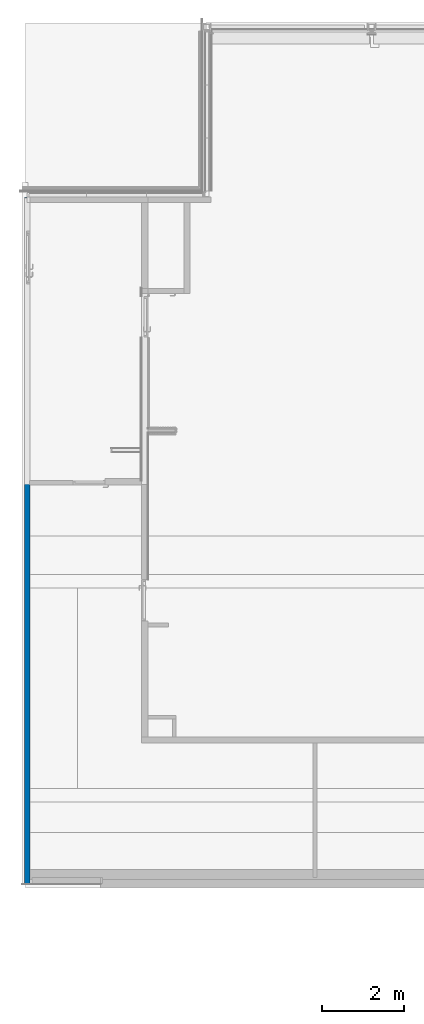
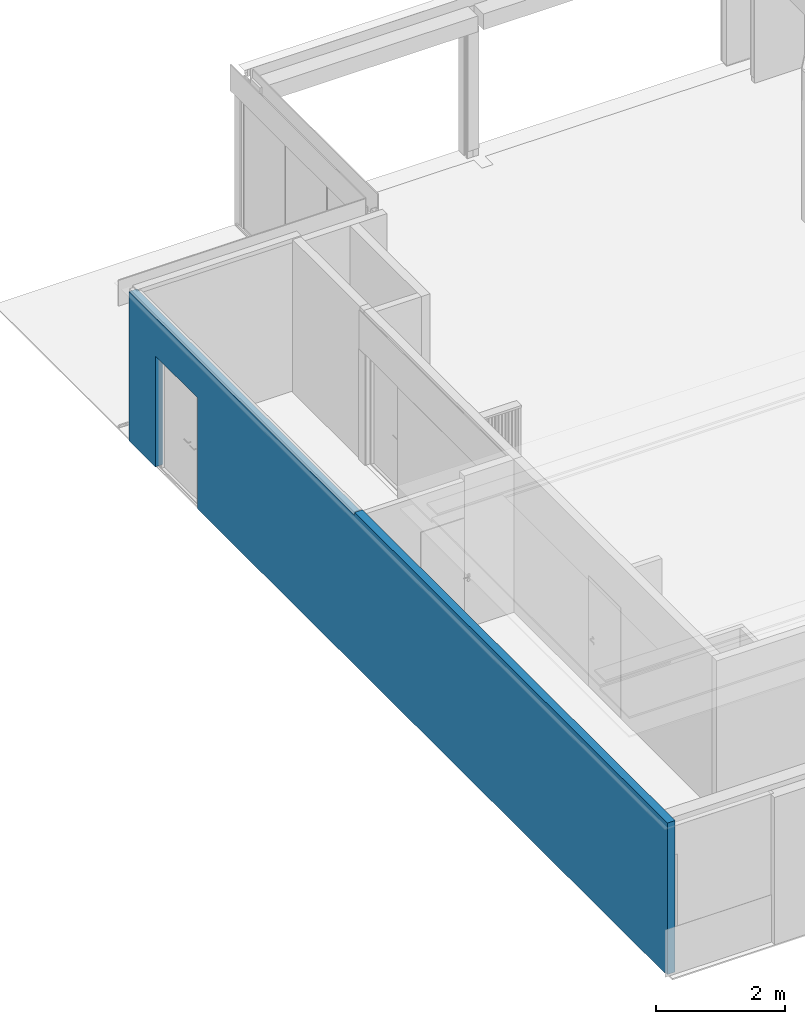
# One storey, part 27 of 37: 1 wall, 1 opening.
"""IFC2X3 building model written with IfcOpenShell, lengths in millimetres."""

from ifc_helpers import new_model, entity, si_unit, converted_unit, derived_unit, direction, frame, frame_2d, origin_with_axes, place, context, subcontext, project, spatial, rectangle, extrude, faceted_brep, material, layer, layer_set, type_object, element, save


model = new_model("IFC2X3")

# Units and contexts
model_context = context("Model", 3, precision=0.01, world=frame((0.0, 4.29681676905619e-09, 0.0)), true_north=direction((4.01073788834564e-13, 1.0)))
plan_context = context("Plan", 3, precision=0.01, world=frame((0.0, 4.29681676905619e-09, 0.0)), true_north=direction((4.01073788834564e-13, 1.0)))
body_context = subcontext(model_context, "Body", "Model", "MODEL_VIEW")
ifc_project = project(units=[converted_unit("PLANEANGLEUNIT", "DEGREE", entity("IfcPositiveLengthMeasure", 0.0174532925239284), si_unit("PLANEANGLEUNIT", "RADIAN"), dimensions=[0, 0, 0, 0, 0, 0, 0]), si_unit("AREAUNIT", "SQUARE_METRE"), si_unit("LENGTHUNIT", "METRE", prefix="MILLI"), si_unit("MASSUNIT", "GRAM", prefix="KILO"), si_unit("POWERUNIT", "WATT"), si_unit("PRESSUREUNIT", "PASCAL"), si_unit("FORCEUNIT", "NEWTON", prefix="KILO"), si_unit("ELECTRICVOLTAGEUNIT", "VOLT"), si_unit("ELECTRICCURRENTUNIT", "AMPERE"), si_unit("THERMODYNAMICTEMPERATUREUNIT", "DEGREE_CELSIUS"), si_unit("TIMEUNIT", "SECOND"), si_unit("VOLUMEUNIT", "CUBIC_METRE"), derived_unit("LINEARVELOCITYUNIT", [(si_unit("LENGTHUNIT", "METRE"), 1), (si_unit("TIMEUNIT", "SECOND"), -1)]), derived_unit("VOLUMETRICFLOWRATEUNIT", [(si_unit("VOLUMEUNIT", "CUBIC_METRE"), 1), (si_unit("TIMEUNIT", "SECOND"), -1)]), derived_unit("THERMALTRANSMITTANCEUNIT", [(si_unit("POWERUNIT", "WATT"), 1), (si_unit("THERMODYNAMICTEMPERATUREUNIT", "KELVIN"), -1), (si_unit("AREAUNIT", "SQUARE_METRE"), -1)]), derived_unit("SOUNDPRESSUREUNIT", [(si_unit("PRESSUREUNIT", "PASCAL"), 1)])], contexts=[model_context, plan_context])

# Site, building, storey
site_placement = place(None, origin_with_axes())
site = spatial("IfcSite", under=ifc_project, at=site_placement, Name="ENGM", CompositionType="ELEMENT")
building_placement = place(site_placement, origin_with_axes())
building = spatial("IfcBuilding", under=site, at=building_placement, Name="TS", CompositionType="ELEMENT")
storey_placement = place(building_placement, frame((0.0, 0.0, 210900.0), z_axis=(0.0, 0.0, 1.0), x_axis=(1.0, 0.0, 0.0)))
storey = spatial("IfcBuildingStorey", under=building, at=storey_placement, Name="Nivå F", CompositionType="ELEMENT", Elevation=210900.0)

# Wall, opening
ifc_material_1 = material(Name="Plate - Gips")
ifc_layer_1 = layer(ifc_material_1, 12.5)
ifc_material_2 = material(Name="_NSW X-finer")
ifc_layer_2 = layer(ifc_material_2, 15.0)
ifc_material_3 = material(Name="_NSW Stålstender, uisolert")
ifc_layer_3 = layer(ifc_material_3, 100.0)
ifc_layer_4 = layer(ifc_material_1, 12.5)
ifc_layer_set = layer_set([ifc_layer_1, ifc_layer_2, ifc_layer_3, ifc_layer_4], Name="Basic Wall:A241 - SXVS-100")
wall_type = type_object("IfcWallType", Name="Basic Wall:A241 - SXVS-100", PredefinedType="STANDARD", material=ifc_layer_set)
wall_placement = place(storey_placement, frame((520586.000000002, 457634.999999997, 0.0), z_axis=(0.0, 0.0, 1.0), x_axis=(0.0, -1.0, 0.0)))
wall = element("IfcWall", 1, at=wall_placement, inside=storey, type_object=wall_type, Name="Basic Wall:A241 - SXVS-100", ObjectType="Basic Wall:A241 - SXVS-100", context=body_context, shape_type="Brep", body=[
    faceted_brep([(16750.0, -70.0, 2900.0), (7014.94175888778, -70.0, 2900.0), (7014.94175888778, -70.0, 2843.0), (0.0, -70.0, 2843.0), (0.0, -70.0, 0.0), (812.0, -70.0, 0.0), (812.0, -70.0, 2110.0), (2122.0, -70.0, 2110.0), (2122.0, -70.0, 0.0), (16662.0, -70.0, 0.0), (16662.0, -70.0, 22.0), (16750.0, -70.0, 22.0), (16750.0, -70.0, 2250.0), (16749.0, -70.0, 2250.0), (16749.0, -70.0, 2690.0), (16750.0, -70.0, 2690.0), (7014.94175888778, 70.0, 2900.0), (16750.0, 70.0, 2900.0), (16750.0, 70.0, 2690.0), (16749.0, 70.0, 2690.0), (16749.0, 70.0, 2250.0), (16750.0, 70.0, 2250.0), (16750.0, 70.0, 22.0), (16662.0, 70.0, 22.0), (16662.0, 70.0, 0.0), (2122.0, 70.0, 0.0), (2122.0, 70.0, 2110.0), (812.0, 70.0, 2110.0), (812.0, 70.0, 0.0), (0.0, 70.0, 0.0), (0.0, 70.0, 2843.0), (123.499999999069, 70.0, 2843.0), (7014.94175888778, 70.0, 2843.0), (16662.0, -41.0124999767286, 0.0)], [[[0, 1, 2, 3, 4, 5, 6, 7, 8, 9, 10, 11, 12, 13, 14, 15]], [[16, 17, 18, 19, 20, 21, 22, 23, 24, 25, 26, 27, 28, 29, 30, 31, 32]], [[7, 26, 25, 8]], [[26, 7, 6, 27]], [[27, 6, 5, 28]], [[10, 9, 33, 24, 23]], [[5, 4, 29, 28]], [[1, 0, 17, 16]], [[4, 3, 30, 29]], [[2, 1, 16, 32]], [[3, 2, 32, 31, 30]], [[11, 10, 23, 22]], [[17, 0, 15, 18]], [[13, 20, 19, 14]], [[14, 19, 18, 15]], [[20, 13, 12, 21]], [[11, 22, 21, 12]], [[9, 8, 25, 24, 33]]]),
])
opening_placement = place(wall_placement, frame((812.0, -70.0, 0.0), z_axis=(0.0, 0.0, 1.0), x_axis=(1.0, 0.0, 0.0)))
element("IfcOpeningElement", 2, at=opening_placement, cuts=wall, Name="A20 - Slagdør - Dobbel ulik - Glassfelt:A233 - DI_SSG - 1290 x 2090 mm:1", ObjectType="Opening", context=body_context, shape_type="SweptSolid", body=[
    extrude(rectangle(XDim=2109.99999999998, YDim=1310.0, at=frame_2d((1054.99999999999, 654.999999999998), x_axis=(1.0, 0.0))), frame((0.0, 0.0, 0.0), z_axis=(0.0, 1.0, 0.0), x_axis=(0.0, 0.0, 1.0)), (0.0, 0.0, 1.0), 140.0),
])

save(model, "model.ifc")
